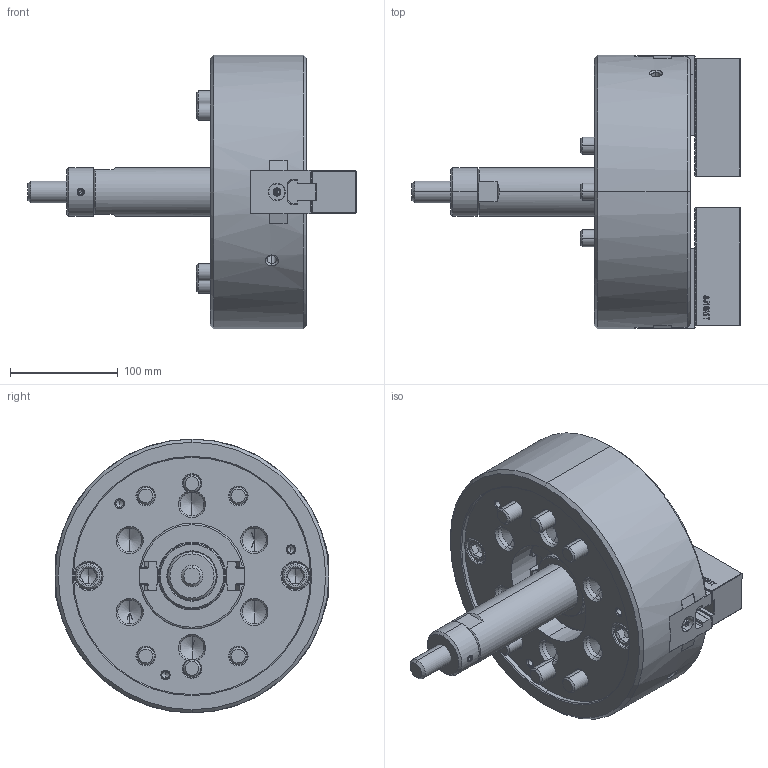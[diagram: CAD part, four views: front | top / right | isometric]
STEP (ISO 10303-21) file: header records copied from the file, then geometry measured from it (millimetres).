
FILE_DESCRIPTION (( 'STEP AP214' ), '1' );
FILE_NAME ('DT1_NLT10_OUTSIDE_VIEW_HUL.STEP', '2026-03-23T07:07:11', ( '' ), ( '' ), 'SwSTEP 2.0', 'SolidWorks 2022', '' );
FILE_SCHEMA (( 'AUTOMOTIVE_DESIGN' ));
Length unit declared in the file: millimetre
Products named in the file (11): Copy of 61P335751^DT1_NLT10; DT1_NLT10_TNUT^DT1_NLT10; DT1_NLT10_M5x12^DT1_NLT10; DT1_NLT10_DN^DT1_NLT10; DT1_NLT10_DRAWSCREW^DT1_NLT10; DT1_NLT10_BASE^DT1_NLT10; DT1_NLT10_SOFTJAW^DT1_NLT10; DT1_NLT10_M16x85^DT1_NLT10; DT1_NLT10_COVER^DT1_NLT10; DT1_NLT10_M12x35^DT1_NLT10; DT1_NLT10_OUTSIDE_VIEW_HUL
Assembly tree (23 placements, depth 2):
  DT1_NLT10_OUTSIDE_VIEW_HUL
    DT1_NLT10_SOFTJAW^DT1_NLT10  x2
    DT1_NLT10_TNUT^DT1_NLT10  x2
    DT1_NLT10_COVER^DT1_NLT10
    DT1_NLT10_DRAWSCREW^DT1_NLT10
    Copy of 61P335751^DT1_NLT10
    DT1_NLT10_DN^DT1_NLT10
    DT1_NLT10_BASE^DT1_NLT10
    DT1_NLT10_M16x85^DT1_NLT10  x6
    DT1_NLT10_M12x35^DT1_NLT10  x4
    DT1_NLT10_M5x12^DT1_NLT10  x4
Bounding box: 304.29 x 254 x 254 mm (x, y, z)
Volume: 4579328.7 mm3; surface area: 461661.6 mm2
Topology: 23 solids, 23 shells, 4015 faces, 11345 edges, 7409 vertices
Faces by surface type: plane 2363, cylinder 1055, cone 375, bspline 174, torus 44, sphere 4
Entity records: 99308 total; most frequent: CARTESIAN_POINT 28240, ORIENTED_EDGE 16164, DIRECTION 12675, EDGE_CURVE 8082, VECTOR 5661, LINE 5661, VERTEX_POINT 5300, AXIS2_PLACEMENT_3D 3507
